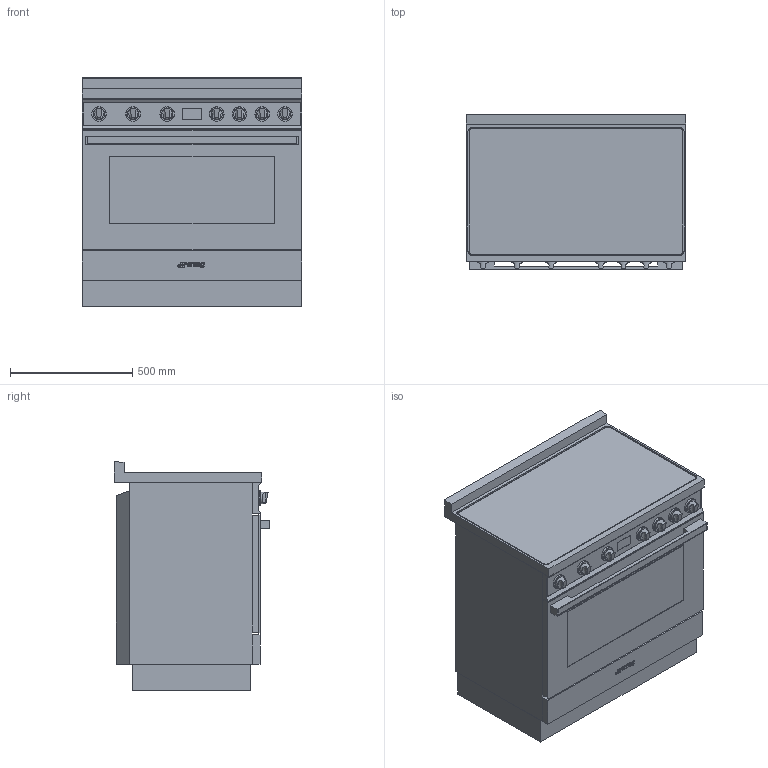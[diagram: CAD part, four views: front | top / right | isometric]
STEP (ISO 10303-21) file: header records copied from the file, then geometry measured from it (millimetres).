
FILE_DESCRIPTION(/* description */ (''),/* implementation_level */ '2;1');
FILE_NAME(/* name */ 'CPF9I.stp',/* time_stamp */ '2017-10-11T08:43:52+02:00',/* author */ (''),/* organization */ (''),/* preprocessor_version */ 'ST-DEVELOPER v16',/* originating_system */ 'SIEMENS PLM Software NX 11.0',/* authorisation */ '');
FILE_SCHEMA (('AUTOMOTIVE_DESIGN { 1 0 10303 214 3 1 1 1 }'));
Length unit declared in the file: millimetre
Products named in the file (1): gras6ACC90ABnbjj
Bounding box: 898 x 635.25 x 934.82 mm (x, y, z)
Volume: 408285756.7 mm3; surface area: 10241625.9 mm2
Topology: 38 solids, 38 shells, 346 faces, 764 edges, 509 vertices
Faces by surface type: plane 222, cylinder 64, bspline 42, extrusion 11, cone 7
Full cylindrical faces by diameter (mm): 5 x4, 9.6 x6, 46.483 x7, 60 x7
Entity records: 12914 total; most frequent: CARTESIAN_POINT 5497, ORIENTED_EDGE 1444, DIRECTION 1314, EDGE_CURVE 722, VERTEX_POINT 499, AXIS2_PLACEMENT_3D 443, VECTOR 428, LINE 417
